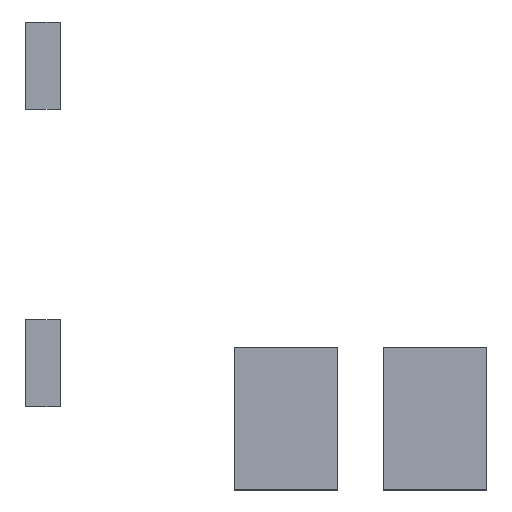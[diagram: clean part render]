
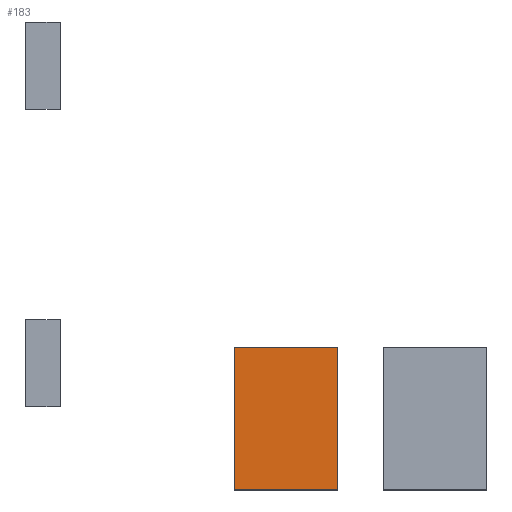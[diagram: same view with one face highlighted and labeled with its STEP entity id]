
A CAD part, top view. The second image highlights one B-rep face of the part: STEP entity #183.
In plain terms, the highlighted planar face has unit normal (0, 0, 1).
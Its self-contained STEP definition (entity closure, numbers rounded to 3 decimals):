
#54 = VERTEX_POINT('',#55);
#55 = CARTESIAN_POINT('',(3040.,-1160.,-1080.));
#70 = VERTEX_POINT('',#71);
#71 = CARTESIAN_POINT('',(3040.,-540.,-1080.));
#77 = EDGE_CURVE('',#54,#70,#78,.T.);
#78 = LINE('',#79,#80);
#79 = CARTESIAN_POINT('',(3040.,-1160.,-1080.));
#80 = VECTOR('',#81,1.);
#81 = DIRECTION('',(-0.,1.,0.));
#94 = VERTEX_POINT('',#95);
#95 = CARTESIAN_POINT('',(3490.,-1160.,-1080.));
#110 = VERTEX_POINT('',#111);
#111 = CARTESIAN_POINT('',(3490.,-540.,-1080.));
#117 = EDGE_CURVE('',#94,#110,#118,.T.);
#118 = LINE('',#119,#120);
#119 = CARTESIAN_POINT('',(3490.,-1160.,-1080.));
#120 = VECTOR('',#121,1.);
#121 = DIRECTION('',(-0.,1.,0.));
#138 = EDGE_CURVE('',#54,#94,#139,.T.);
#139 = LINE('',#140,#141);
#140 = CARTESIAN_POINT('',(3040.,-1160.,-1080.));
#141 = VECTOR('',#142,1.);
#142 = DIRECTION('',(1.,0.,-0.));
#160 = EDGE_CURVE('',#70,#110,#161,.T.);
#161 = LINE('',#162,#163);
#162 = CARTESIAN_POINT('',(3040.,-540.,-1080.));
#163 = VECTOR('',#164,1.);
#164 = DIRECTION('',(1.,0.,-0.));
#183 = ADVANCED_FACE('',(#184),#190,.T.);
#184 = FACE_BOUND('',#185,.T.);
#185 = EDGE_LOOP('',(#186,#187,#188,#189));
#186 = ORIENTED_EDGE('',*,*,#77,.F.);
#187 = ORIENTED_EDGE('',*,*,#138,.T.);
#188 = ORIENTED_EDGE('',*,*,#117,.T.);
#189 = ORIENTED_EDGE('',*,*,#160,.F.);
#190 = PLANE('',#191);
#191 = AXIS2_PLACEMENT_3D('',#192,#193,#194);
#192 = CARTESIAN_POINT('',(3040.,-1160.,-1080.));
#193 = DIRECTION('',(0.,0.,1.));
#194 = DIRECTION('',(1.,0.,-0.));
